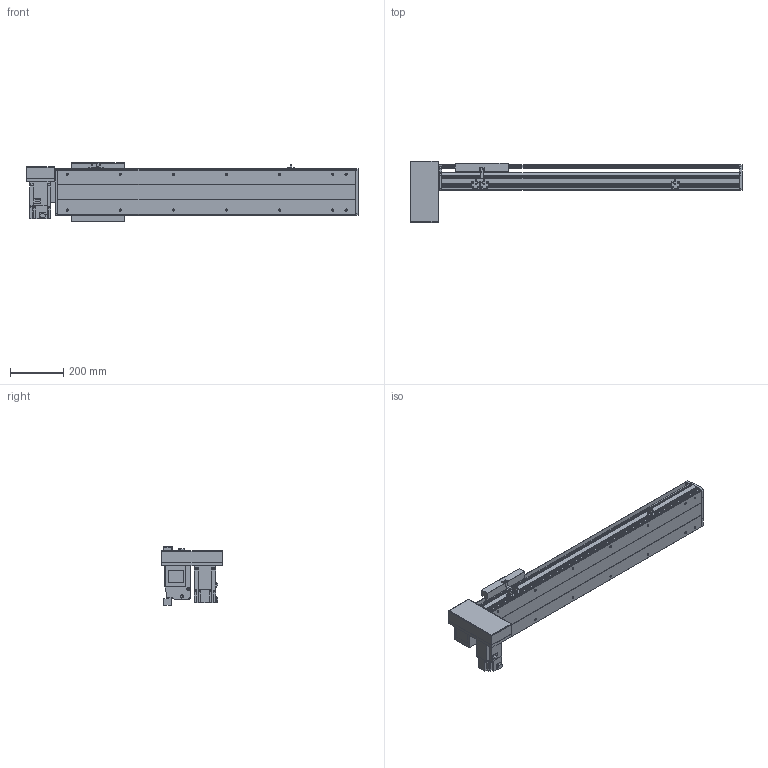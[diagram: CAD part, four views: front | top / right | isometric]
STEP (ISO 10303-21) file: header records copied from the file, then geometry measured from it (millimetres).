
FILE_DESCRIPTION(/* description */ ('STEP AP214'),/* implementation_level */ '2;1');
FILE_NAME(/* name */ 'PBS200-P40-S750-RD-T75-C1-N(0)',/* time_stamp */ '2022-06-11T09:28:34+02:00',/* author */ ('License CC BY-ND 4.0'),/* organization */ ('CADENAS'),/* preprocessor_version */ 'ST-DEVELOPER v18.102',/* originating_system */ 'PARTsolutions',/* authorisation */ ' ');
FILE_SCHEMA (('AUTOMOTIVE_DESIGN {1 0 10303 214 3 1 1}'));
Length unit declared in the file: millimetre
Products named in the file (7): PBS200-P40-S750-RD-T75-C1-N(0); PBS200_sensor; PBS200_plant; PBS200_sliser; T75-p1; PBS200T-RD_motors; PBS200-S750()_body
Assembly tree (8 placements, depth 2):
  PBS200-P40-S750-RD-T75-C1-N(0)
    PBS200_sensor  x3
    PBS200_plant
    PBS200_sliser
    T75-p1
    PBS200T-RD_motors
    PBS200-S750()_body
Bounding box: 1250 x 230 x 221 mm (x, y, z)
Volume: 9675769.5 mm3; surface area: 1573653.4 mm2
Topology: 8 solids, 8 shells, 914 faces, 2364 edges, 1542 vertices
Faces by surface type: plane 572, cylinder 296, cone 46
Full cylindrical faces by diameter (mm): 2.459 x6, 3.242 x4, 4.5 x6, 4.917 x4, 5 x6, 6 x7, 6.6 x8, 6.647 x18, 8 x6, 10 x4, 12 x8, 38 x2, 40 x1, 70 x1
Entity records: 24461 total; most frequent: DIRECTION 4303, CARTESIAN_POINT 4174, ORIENTED_EDGE 3970, EDGE_CURVE 1985, AXIS2_PLACEMENT_3D 1495, VERTEX_POINT 1366, LINE 1313, VECTOR 1313
